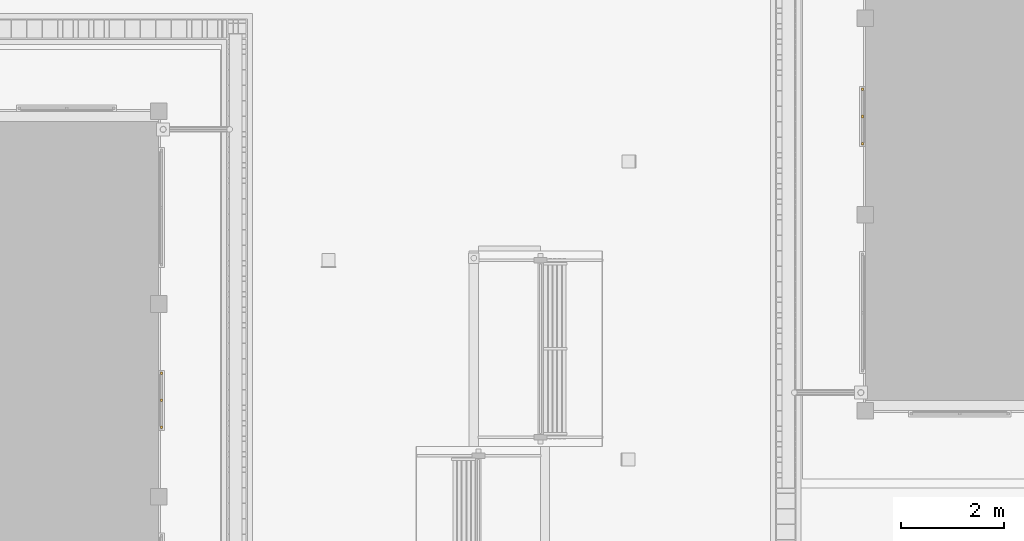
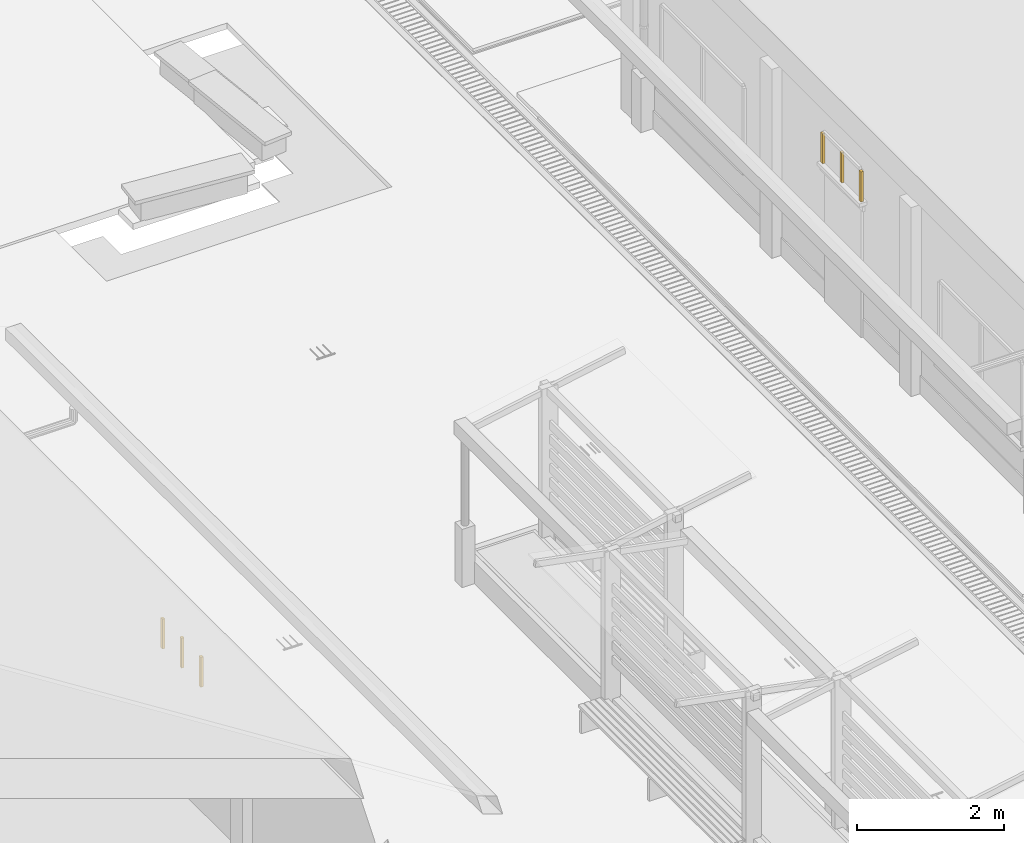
# One storey, part 73 of 151: 6 windows.
"""IFC2X3 building model written with IfcOpenShell, lengths in metres."""

from ifc_helpers import new_model, si_unit, origin, origin_with_axes, place, context, subcontext, project, spatial, faceted_brep, element, save


model = new_model("IFC2X3")

# Units and contexts
model_context = context("Model", 3, precision=1e-05, world=origin_with_axes())
body_context = subcontext(model_context, "Body", "Model", "MODEL_VIEW")
ifc_project = project(units=[si_unit("LENGTHUNIT", "METRE"), si_unit("AREAUNIT", "SQUARE_METRE"), si_unit("VOLUMEUNIT", "CUBIC_METRE"), si_unit("PLANEANGLEUNIT", "RADIAN")], contexts=[model_context])

# Site, building, storey
site_placement = place(None, origin_with_axes())
site = spatial("IfcSite", under=ifc_project, at=site_placement, Name="Predio Los Mangos - Morales, San Martín", CompositionType="ELEMENT")
building_placement = place(site_placement, origin())
building = spatial("IfcBuilding", under=site, at=building_placement, Name="Hogar de Refugio Temporal", CompositionType="ELEMENT")
storey_placement = place(building_placement, origin())
storey = spatial("IfcBuildingStorey", under=building, at=storey_placement, Name="NIVEL 1 (NPT +0.00)", CompositionType="ELEMENT", Elevation=0.0)

# Windows
window_1_placement = place(storey_placement, origin())
element("IfcWindow", 1, at=window_1_placement, inside=storey, Name="E-01_vt4_m", ObjectType="Ventana", context=body_context, shape_type="Brep", body=[
    faceted_brep([(31.64, 42.55, 2.45), (31.64, 42.6, 2.45), (31.68, 42.6, 2.45), (31.68, 42.55, 2.45), (31.64, 42.55, 2.95), (31.68, 42.55, 2.95), (31.68, 42.6, 2.95), (31.64, 42.6, 2.95)], [[[0, 1, 2, 3]], [[4, 5, 6, 7]], [[0, 3, 5, 4]], [[3, 2, 6, 5]], [[2, 1, 7, 6]], [[1, 0, 4, 7]]]),
])
window_2_placement = place(storey_placement, origin())
element("IfcWindow", 2, at=window_2_placement, inside=storey, Name="E-01_vt4_m", ObjectType="Ventana", context=body_context, shape_type="Brep", body=[
    faceted_brep([(31.64, 43.6, 2.45), (31.64, 43.65, 2.45), (31.68, 43.65, 2.45), (31.68, 43.6, 2.45), (31.64, 43.6, 2.95), (31.68, 43.6, 2.95), (31.68, 43.65, 2.95), (31.64, 43.65, 2.95)], [[[0, 1, 2, 3]], [[4, 5, 6, 7]], [[0, 3, 5, 4]], [[3, 2, 6, 5]], [[2, 1, 7, 6]], [[1, 0, 4, 7]]]),
])
window_3_placement = place(storey_placement, origin())
element("IfcWindow", 3, at=window_3_placement, inside=storey, Name="E-01_vt4_m", ObjectType="Ventana", context=body_context, shape_type="Brep", body=[
    faceted_brep([(31.64, 43.075, 2.45), (31.64, 43.125, 2.45), (31.68, 43.125, 2.45), (31.68, 43.075, 2.45), (31.64, 43.075, 2.95), (31.68, 43.075, 2.95), (31.68, 43.125, 2.95), (31.64, 43.125, 2.95)], [[[0, 1, 2, 3]], [[4, 5, 6, 7]], [[0, 3, 5, 4]], [[3, 2, 6, 5]], [[2, 1, 7, 6]], [[1, 0, 4, 7]]]),
])
window_4_placement = place(storey_placement, origin())
element("IfcWindow", 4, at=window_4_placement, inside=storey, Name="E-02_vt1_m", ObjectType="Ventana", context=body_context, shape_type="Brep", body=[
    faceted_brep([(45.22, 48.05, 2.45), (45.22, 48.1, 2.45), (45.26, 48.1, 2.45), (45.26, 48.05, 2.45), (45.22, 48.05, 2.95), (45.26, 48.05, 2.95), (45.26, 48.1, 2.95), (45.22, 48.1, 2.95)], [[[0, 1, 2, 3]], [[4, 5, 6, 7]], [[0, 3, 5, 4]], [[3, 2, 6, 5]], [[2, 1, 7, 6]], [[1, 0, 4, 7]]]),
])
window_5_placement = place(storey_placement, origin())
element("IfcWindow", 5, at=window_5_placement, inside=storey, Name="E-02_vt1_m", ObjectType="Ventana", context=body_context, shape_type="Brep", body=[
    faceted_brep([(45.22, 49.1, 2.45), (45.22, 49.15, 2.45), (45.26, 49.15, 2.45), (45.26, 49.1, 2.45), (45.22, 49.1, 2.95), (45.26, 49.1, 2.95), (45.26, 49.15, 2.95), (45.22, 49.15, 2.95)], [[[0, 1, 2, 3]], [[4, 5, 6, 7]], [[0, 3, 5, 4]], [[3, 2, 6, 5]], [[2, 1, 7, 6]], [[1, 0, 4, 7]]]),
])
window_6_placement = place(storey_placement, origin())
element("IfcWindow", 6, at=window_6_placement, inside=storey, Name="E-02_vt1_m", ObjectType="Ventana", context=body_context, shape_type="Brep", body=[
    faceted_brep([(45.22, 48.575, 2.45), (45.22, 48.625, 2.45), (45.26, 48.625, 2.45), (45.26, 48.575, 2.45), (45.22, 48.575, 2.95), (45.26, 48.575, 2.95), (45.26, 48.625, 2.95), (45.22, 48.625, 2.95)], [[[0, 1, 2, 3]], [[4, 5, 6, 7]], [[0, 3, 5, 4]], [[3, 2, 6, 5]], [[2, 1, 7, 6]], [[1, 0, 4, 7]]]),
])

save(model, "model.ifc")
